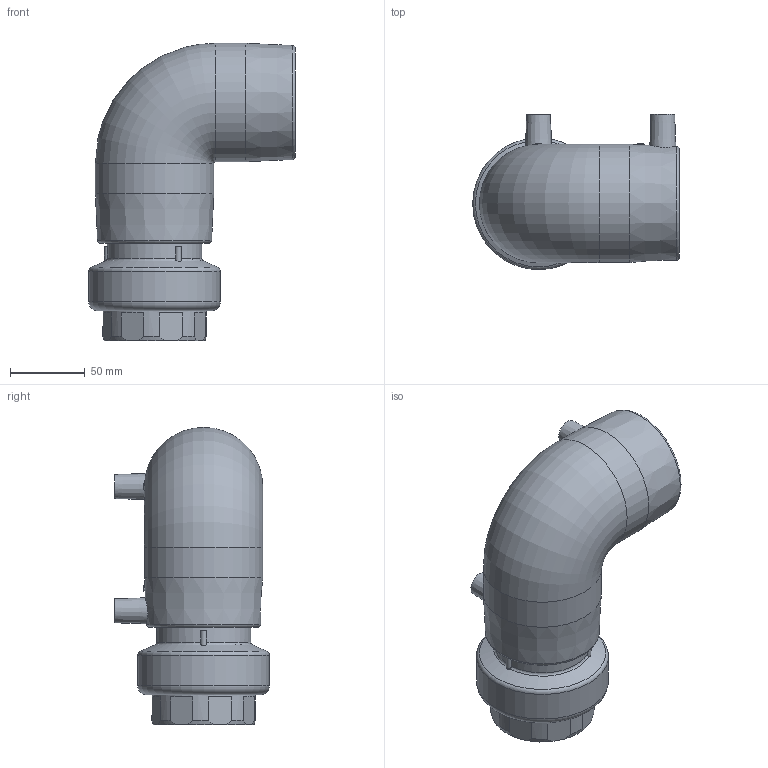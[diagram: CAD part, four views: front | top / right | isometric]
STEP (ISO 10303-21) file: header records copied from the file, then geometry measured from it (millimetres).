
FILE_DESCRIPTION(/* description */ ('Unknown'),/* implementation_level */ '2;1');
FILE_NAME(/* name */ 'GE9TFP063C',/* time_stamp */ '2021-03-02T14:57:35+01:00',/* author */ ('Unknown'),/* organization */ ('Unknown'),/* preprocessor_version */ 'ST-DEVELOPER v16.7',/* originating_system */ 'Solid Edge',/* authorisation */ 'Unknown');
FILE_SCHEMA (('AUTOMOTIVE_DESIGN {1 0 10303 214 3 1 1}'));
Length unit declared in the file: millimetre
Products named in the file (5): GE9TFP063C; GE9P063C; RTOFP063C; Parte PE 063; IOF063C
Assembly tree (4 placements, depth 3):
  GE9TFP063C
    GE9P063C
    RTOFP063C
      Parte PE 063
      IOF063C
Bounding box: 138 x 103.5 x 198.5 mm (x, y, z)
Volume: 534381.2 mm3; surface area: 161010.8 mm2
Topology: 3 solids, 3 shells, 350 faces, 913 edges, 596 vertices
Faces by surface type: bspline 111, plane 100, cone 69, cylinder 44, torus 26
Full cylindrical faces by diameter (mm): 4 x4, 12 x2, 51.4 x1, 55.6 x3, 57 x2, 60 x2, 60.2 x2, 63 x3, 67 x2, 69 x3, 74 x6, 79 x2, 88 x1
Entity records: 13632 total; most frequent: CARTESIAN_POINT 5378, ORIENTED_EDGE 1662, DIRECTION 1082, EDGE_CURVE 831, VERTEX_POINT 576, AXIS2_PLACEMENT_3D 495, B_SPLINE_CURVE_WITH_KNOTS 488, EDGE_LOOP 445
